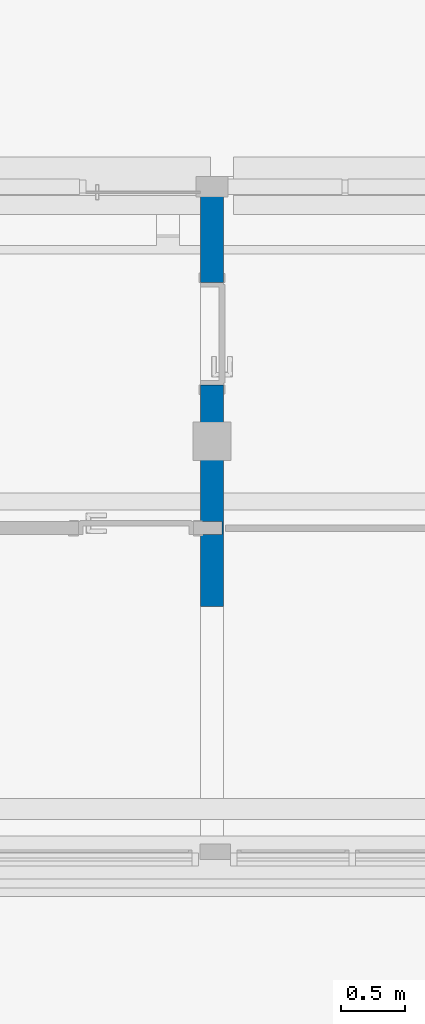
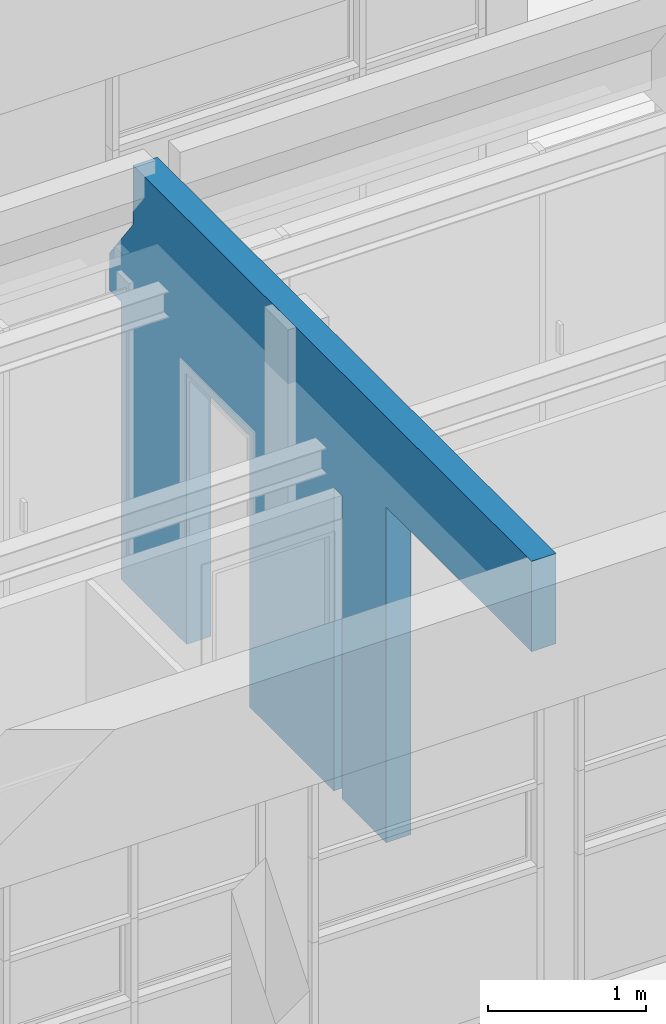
# One storey, part 89 of 117: 1 wall, 5 openings.
"""IFC4 building model written with IfcOpenShell, lengths in metres."""

from ifc_helpers import new_model, entity, si_unit, converted_unit, derived_unit, direction, frame, origin, place, context, subcontext, project, spatial, indexed_curve, outline, extrude, polygons, material, type_object, element, save


model = new_model("IFC4")

# Units and contexts
model_context = context("Model", 3, precision=1e-05, world=origin(), true_north=direction((6.123031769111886e-17, 1.0)))
body_context = subcontext(model_context, "Body", "Model", "MODEL_VIEW")
ifc_project = project(units=[si_unit("LENGTHUNIT", "METRE"), si_unit("AREAUNIT", "SQUARE_METRE"), si_unit("VOLUMEUNIT", "CUBIC_METRE"), converted_unit("PLANEANGLEUNIT", "DEGREE", entity("IfcRatioMeasure", 0.017453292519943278), si_unit("PLANEANGLEUNIT", "RADIAN"), dimensions=[0, 0, 0, 0, 0, 0, 0]), si_unit("MASSUNIT", "GRAM", prefix="KILO"), derived_unit("MASSDENSITYUNIT", [(si_unit("MASSUNIT", "GRAM", prefix="KILO"), 1), (si_unit("LENGTHUNIT", "METRE"), -3)]), derived_unit("MOMENTOFINERTIAUNIT", [(si_unit("LENGTHUNIT", "METRE"), 4)]), si_unit("TIMEUNIT", "SECOND"), si_unit("FREQUENCYUNIT", "HERTZ"), si_unit("THERMODYNAMICTEMPERATUREUNIT", "DEGREE_CELSIUS"), derived_unit("THERMALTRANSMITTANCEUNIT", [(si_unit("MASSUNIT", "GRAM", prefix="KILO"), 1), (si_unit("THERMODYNAMICTEMPERATUREUNIT", "KELVIN"), -1), (si_unit("TIMEUNIT", "SECOND"), -3)]), derived_unit("VOLUMETRICFLOWRATEUNIT", [(si_unit("LENGTHUNIT", "METRE"), 3), (si_unit("TIMEUNIT", "SECOND"), -1)]), derived_unit("MASSFLOWRATEUNIT", [(si_unit("MASSUNIT", "GRAM", prefix="KILO"), 1), (si_unit("TIMEUNIT", "SECOND"), -1)]), derived_unit("ROTATIONALFREQUENCYUNIT", [(si_unit("TIMEUNIT", "SECOND"), -1)]), si_unit("ELECTRICCURRENTUNIT", "AMPERE"), si_unit("ELECTRICVOLTAGEUNIT", "VOLT"), si_unit("POWERUNIT", "WATT"), si_unit("FORCEUNIT", "NEWTON", prefix="KILO"), si_unit("ILLUMINANCEUNIT", "LUX"), si_unit("LUMINOUSFLUXUNIT", "LUMEN"), si_unit("LUMINOUSINTENSITYUNIT", "CANDELA"), derived_unit("USERDEFINED", [(si_unit("MASSUNIT", "GRAM", prefix="KILO"), -1), (si_unit("LENGTHUNIT", "METRE"), -2), (si_unit("TIMEUNIT", "SECOND"), 3), (si_unit("LUMINOUSFLUXUNIT", "LUMEN"), 1)]), derived_unit("SOUNDPOWERUNIT", [(si_unit("MASSUNIT", "GRAM", prefix="KILO"), 1), (si_unit("LENGTHUNIT", "METRE"), 2), (si_unit("TIMEUNIT", "SECOND"), -3)]), derived_unit("SOUNDPRESSUREUNIT", [(si_unit("MASSUNIT", "GRAM", prefix="KILO"), 1), (si_unit("LENGTHUNIT", "METRE"), -1), (si_unit("TIMEUNIT", "SECOND"), -2)]), derived_unit("LINEARVELOCITYUNIT", [(si_unit("LENGTHUNIT", "METRE"), 1), (si_unit("TIMEUNIT", "SECOND"), -1)]), si_unit("PRESSUREUNIT", "PASCAL"), derived_unit("USERDEFINED", [(si_unit("LENGTHUNIT", "METRE"), -2), (si_unit("MASSUNIT", "GRAM", prefix="KILO"), 1), (si_unit("TIMEUNIT", "SECOND"), -2)]), derived_unit("LINEARFORCEUNIT", [(si_unit("MASSUNIT", "GRAM", prefix="KILO"), 1), (si_unit("LENGTHUNIT", "METRE"), 1), (si_unit("TIMEUNIT", "SECOND"), -2), (si_unit("LENGTHUNIT", "METRE"), -1)]), derived_unit("PLANARFORCEUNIT", [(si_unit("MASSUNIT", "GRAM", prefix="KILO"), 1), (si_unit("LENGTHUNIT", "METRE"), 1), (si_unit("TIMEUNIT", "SECOND"), -2), (si_unit("LENGTHUNIT", "METRE"), -2)])], contexts=[model_context])

# Site, building, storey
site_placement = place(None, origin())
site = spatial("IfcSite", under=ifc_project, at=site_placement, Name="Superficie", CompositionType="ELEMENT")
building_placement = place(site_placement, origin())
building = spatial("IfcBuilding", under=site, at=building_placement, CompositionType="ELEMENT")
storey_placement = place(building_placement, origin())
storey = spatial("IfcBuildingStorey", under=building, at=storey_placement, Name="Nivel 0", CompositionType="ELEMENT", Elevation=0.0)

# Wall, openings
ifc_material = material(Name="Muro por defecto", Category="Varios")
wall_type = type_object("IfcWallType", Name="Muro básico:Por defecto - 18 cm 2", PredefinedType="STANDARD")
wall_placement = place(storey_placement, frame((8.901799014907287, -1.6041707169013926, 0.0), z_axis=(0.0, 0.0, 1.0), x_axis=(0.0, 1.0, 0.0)))
wall = element("IfcWall", 1, at=wall_placement, inside=storey, type_object=wall_type, material=ifc_material, Name="Muro básico:Por defecto - 18 cm 2", ObjectType="Muro básico:Por defecto - 18 cm 2", PredefinedType="NOTDEFINED", context=body_context, shape_type="Tessellation", body=[
    polygons([(5.061199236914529, -0.09000000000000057, 3.3), (2.707167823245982e-16, -0.0900000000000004, 3.3), (2.707167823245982e-16, -0.0900000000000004, 2.5999999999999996), (1.8464468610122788, -0.0900000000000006, 2.5999999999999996), (1.8464468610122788, -0.0900000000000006, 0.0), (3.579999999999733, -0.09000000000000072, 0.0), (3.579999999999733, -0.09000000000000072, 2.099999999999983), (4.379999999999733, -0.09000000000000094, 2.099999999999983), (4.379999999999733, -0.09000000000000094, 0.0), (5.209884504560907, -0.09000000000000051, 0.0), (5.209884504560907, -0.09000000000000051, 2.1500000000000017), (5.360000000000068, -0.09000000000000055, 2.1500000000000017), (5.360000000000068, -0.09000000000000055, 2.439999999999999), (5.061199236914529, -0.09000000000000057, 2.83840101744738), (2.707167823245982e-16, 0.08999999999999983, 3.3), (5.061199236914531, 0.08999999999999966, 3.3), (5.061199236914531, 0.08999999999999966, 2.83840101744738), (5.360000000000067, 0.08999999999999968, 2.439999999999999), (5.360000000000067, 0.08999999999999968, 2.1500000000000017), (5.209884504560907, 0.08999999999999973, 2.1500000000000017), (5.209884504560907, 0.08999999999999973, 0.0), (4.379999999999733, 0.09000000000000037, 0.0), (4.379999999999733, 0.09000000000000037, 2.099999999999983), (3.579999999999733, 0.0900000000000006, 2.099999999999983), (3.579999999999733, 0.0900000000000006, 0.0), (2.50999999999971, 0.08999999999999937, 0.0), (2.50999999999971, 0.08999999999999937, 2.35), (2.4099999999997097, 0.08999999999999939, 2.35), (2.4099999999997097, 0.08999999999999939, 0.0), (1.8464468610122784, 0.08999999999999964, 0.0), (1.8464468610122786, 0.08999999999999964, 2.5999999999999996), (0.0, 0.08999999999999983, 2.5999999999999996), (2.4099999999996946, -0.08000000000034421, 2.35), (2.4099999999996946, -0.08000000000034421, 0.0), (2.5099999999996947, -0.0800000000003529, 0.0), (2.5099999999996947, -0.0800000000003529, 2.35)], [[[1, 2, 3, 4, 5, 6, 7, 8, 9, 10, 11, 12, 13, 14]], [[15, 16, 17, 18, 19, 20, 21, 22, 23, 24, 25, 26, 27, 28, 29, 30, 31, 32]], [[33, 34, 29, 28]], [[35, 36, 27, 26]], [[36, 33, 28, 27]], [[9, 8, 23, 22]], [[8, 7, 24, 23]], [[7, 6, 25, 24]], [[31, 4, 3, 32]], [[4, 31, 30, 5]], [[34, 33, 36, 35]], [[5, 30, 29, 34, 35, 26, 25, 6]], [[2, 1, 16, 15]], [[2, 15, 32, 3]], [[11, 10, 21, 20]], [[12, 11, 20, 19]], [[13, 12, 19, 18]], [[14, 13, 18, 17]], [[1, 14, 17, 16]], [[9, 22, 21, 10]]], closed=True),
])
opening_1_placement = place(storey_placement, frame((8.901799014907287, -1.6041707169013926, 0.0), z_axis=(0.0, 0.0, 1.0), x_axis=(0.0, 1.0, 0.0)))
element("IfcOpeningElement", 2, at=opening_1_placement, cuts=wall, Name="Muro básico:Por defecto - 18 cm 2:1", PredefinedType="OPENING", context=body_context, shape_type="SweptSolid", body=[
    extrude(outline(indexed_curve([(-1.1749999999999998, -0.08500000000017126), (1.175, -0.08500000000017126), (1.175, 0.08500000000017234), (-1.175, 0.08500000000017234), (-1.1749999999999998, -0.08500000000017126)], self_intersect=False)), frame((2.409999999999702, 0.004999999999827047, 1.175), z_axis=(1.0, 0.0, 0.0), x_axis=(0.0, 0.0, -1.0)), (0.0, 0.0, 1.0), 0.1),
])
opening_2_placement = place(wall_placement, origin())
element("IfcOpeningElement", 3, at=opening_2_placement, cuts=wall, Name="Muro básico:Por defecto - 18 cm 2", PredefinedType="OPENING", context=body_context, shape_type="SweptSolid", body=[
    extrude(outline(indexed_curve([(-1.3610894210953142, -0.9289028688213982), (1.3610894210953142, -0.9289028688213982), (1.3610894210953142, 0.9289028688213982), (-1.3610894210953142, 0.9289028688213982), (-1.3610894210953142, -0.9289028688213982)], self_intersect=False)), frame((0.9175439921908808, -0.09, 1.2389105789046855), z_axis=(0.0, 1.0, 0.0), x_axis=(0.0, 0.0, -1.0)), (0.0, 0.0, 1.0), 0.18000000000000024),
])
opening_3_placement = place(wall_placement, origin())
element("IfcOpeningElement", 4, at=opening_3_placement, cuts=wall, Name="Muro básico:Por defecto - 18 cm 2", PredefinedType="OPENING", context=body_context, shape_type="SweptSolid", body=[
    extrude(outline(indexed_curve([(-0.07505774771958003, -1.0750000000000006), (0.07505774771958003, -1.0750000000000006), (0.07505774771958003, 1.0750000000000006), (-0.07505774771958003, 1.0750000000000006), (-0.07505774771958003, -1.0750000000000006)], self_intersect=False)), frame((5.284942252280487, 0.08999999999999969, 1.0750000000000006), z_axis=(0.0, -1.0, 0.0), x_axis=(1.0, 0.0, 0.0)), (0.0, 0.0, 1.0), 0.18),
])
opening_4_placement = place(wall_placement, origin())
element("IfcOpeningElement", 5, at=opening_4_placement, cuts=wall, Name="Muro básico:Por defecto - 18 cm 2", PredefinedType="OPENING", context=body_context, shape_type="SweptSolid", body=[
    extrude(outline(indexed_curve([(-0.5296002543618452, -0.14940038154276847), (0.33039974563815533, -0.14940038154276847), (0.33039974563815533, 0.14940038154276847), (-0.1311992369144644, 0.14940038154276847), (-0.5296002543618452, -0.14940038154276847)], self_intersect=False)), frame((5.210599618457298, 0.08999999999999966, 2.9696002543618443), z_axis=(0.0, -1.0, 0.0), x_axis=(0.0, 0.0, 1.0)), (0.0, 0.0, 1.0), 0.18),
])
opening_5_placement = place(wall_placement, frame((4.3799999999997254, 0.09000000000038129, 0.0)))
element("IfcOpeningElement", 6, at=opening_5_placement, cuts=wall, Name="Puerta de 1 hoja:80 x 210 cm:1", PredefinedType="OPENING", context=body_context, shape_type="SweptSolid", body=[
    extrude(outline(indexed_curve([(0.0, 5.414335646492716e-16), (2.099999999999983, 5.414335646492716e-16), (2.099999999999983, 0.8000000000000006), (0.0, 0.8000000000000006), (0.0, 5.414335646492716e-16)], self_intersect=False)), frame((0.0, 0.0, 0.0), z_axis=(0.0, -1.0, 0.0), x_axis=(0.0, 0.0, 1.0)), (0.0, 0.0, 1.0), 0.18),
])

save(model, "model.ifc")
